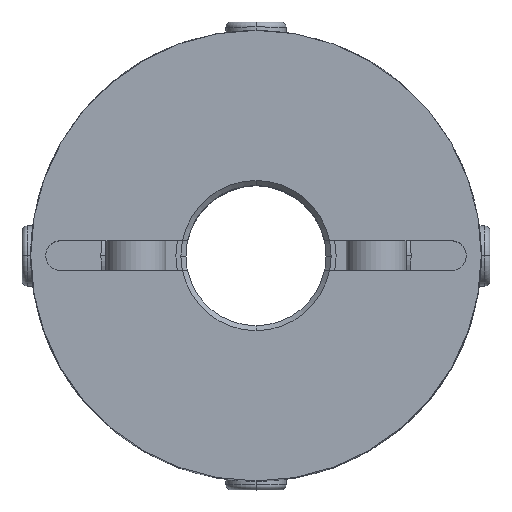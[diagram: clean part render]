
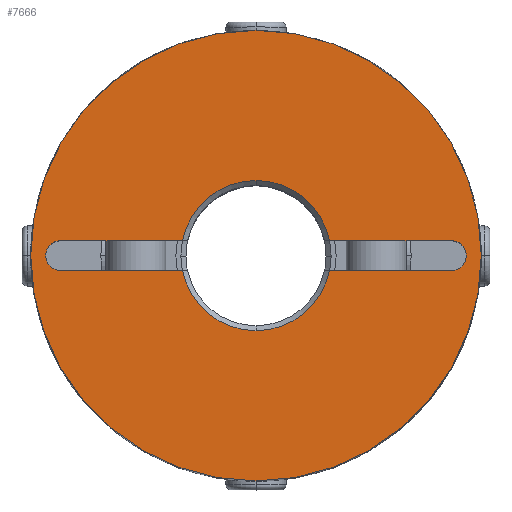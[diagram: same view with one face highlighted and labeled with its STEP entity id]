
A CAD part, top view. The second image highlights one B-rep face of the part: STEP entity #7666.
In plain terms, the highlighted planar face has unit normal (0, 0, 1).
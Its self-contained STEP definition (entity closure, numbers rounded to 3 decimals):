
#979=CARTESIAN_POINT('',(0.,22.5,22.5));
#980=VERTEX_POINT('',#979);
#987=CARTESIAN_POINT('',(0.,-22.5,22.5));
#988=VERTEX_POINT('',#987);
#989=CARTESIAN_POINT('',(0.0,0.0,22.5));
#990=DIRECTION('',(0.0,0.0,-1.0));
#991=DIRECTION('',(0.0,-1.0,0.0));
#992=AXIS2_PLACEMENT_3D('',#989,#990,#991);
#993=CIRCLE('',#992,22.5);
#994=EDGE_CURVE('',#980,#988,#993,.T.);
#1309=CARTESIAN_POINT('',(20.561,1.061,22.5));
#1310=VERTEX_POINT('',#1309);
#1326=CARTESIAN_POINT('',(19.5,-1.5,22.5));
#1327=VERTEX_POINT('',#1326);
#1334=CARTESIAN_POINT('',(19.5,0.,22.5));
#1335=DIRECTION('',(0.0,0.0,1.0));
#1336=DIRECTION('',(0.707,-0.707,0.0));
#1337=AXIS2_PLACEMENT_3D('',#1334,#1335,#1336);
#1338=CIRCLE('',#1337,1.5);
#1339=EDGE_CURVE('',#1327,#1310,#1338,.T.);
#1351=CARTESIAN_POINT('',(-20.561,-1.061,22.5));
#1352=VERTEX_POINT('',#1351);
#1368=CARTESIAN_POINT('',(-19.5,1.5,22.5));
#1369=VERTEX_POINT('',#1368);
#1376=CARTESIAN_POINT('',(-19.5,0.,22.5));
#1377=DIRECTION('',(0.0,0.0,1.0));
#1378=DIRECTION('',(-0.707,0.707,0.0));
#1379=AXIS2_PLACEMENT_3D('',#1376,#1377,#1378);
#1380=CIRCLE('',#1379,1.5);
#1381=EDGE_CURVE('',#1369,#1352,#1380,.T.);
#2105=CARTESIAN_POINT('',(0.,7.5,22.5));
#2106=VERTEX_POINT('',#2105);
#2114=CARTESIAN_POINT('',(7.348,1.5,22.5));
#2115=VERTEX_POINT('',#2114);
#2129=CARTESIAN_POINT('',(0.0,0.0,22.5));
#2130=DIRECTION('',(0.0,0.0,1.0));
#2131=DIRECTION('',(0.0,1.0,0.0));
#2132=AXIS2_PLACEMENT_3D('',#2129,#2130,#2131);
#2133=CIRCLE('',#2132,7.5);
#2134=EDGE_CURVE('',#2115,#2106,#2133,.T.);
#2144=CARTESIAN_POINT('',(0.,-7.5,22.5));
#2145=VERTEX_POINT('',#2144);
#2161=CARTESIAN_POINT('',(-7.348,-1.5,22.5));
#2162=VERTEX_POINT('',#2161);
#2176=CARTESIAN_POINT('',(0.0,0.0,22.5));
#2177=DIRECTION('',(0.0,0.0,1.0));
#2178=DIRECTION('',(0.0,-1.0,0.0));
#2179=AXIS2_PLACEMENT_3D('',#2176,#2177,#2178);
#2180=CIRCLE('',#2179,7.5);
#2181=EDGE_CURVE('',#2162,#2145,#2180,.T.);
#7404=CARTESIAN_POINT('',(19.5,1.5,22.5));
#7405=VERTEX_POINT('',#7404);
#7412=CARTESIAN_POINT('',(7.348,1.5,22.5));
#7413=DIRECTION('',(1.0,0.0,0.0));
#7414=VECTOR('',#7413,12.152);
#7415=LINE('',#7412,#7414);
#7416=EDGE_CURVE('',#2115,#7405,#7415,.T.);
#7551=CARTESIAN_POINT('',(7.348,-1.5,22.5));
#7552=VERTEX_POINT('',#7551);
#7566=CARTESIAN_POINT('',(19.5,-1.5,22.5));
#7567=DIRECTION('',(-1.0,0.0,0.0));
#7568=VECTOR('',#7567,12.152);
#7569=LINE('',#7566,#7568);
#7570=EDGE_CURVE('',#1327,#7552,#7569,.T.);
#7593=CARTESIAN_POINT('',(0.0,0.0,22.5));
#7594=DIRECTION('',(0.0,0.0,1.0));
#7595=DIRECTION('',(0.0,-1.0,0.0));
#7596=AXIS2_PLACEMENT_3D('',#7593,#7594,#7595);
#7597=CIRCLE('',#7596,7.5);
#7598=EDGE_CURVE('',#2145,#7552,#7597,.T.);
#7605=CARTESIAN_POINT('',(0.,-2.045,22.5));
#7606=DIRECTION('',(0.0,0.0,1.0));
#7607=DIRECTION('',(0.0,-1.0,0.0));
#7608=AXIS2_PLACEMENT_3D('',#7605,#7606,#7607);
#7609=PLANE('',#7608);
#7610=CARTESIAN_POINT('',(0.0,0.0,22.5));
#7611=DIRECTION('',(0.0,0.0,-1.0));
#7612=DIRECTION('',(0.0,-1.0,0.0));
#7613=AXIS2_PLACEMENT_3D('',#7610,#7611,#7612);
#7614=CIRCLE('',#7613,22.5);
#7615=EDGE_CURVE('',#988,#980,#7614,.T.);
#7616=ORIENTED_EDGE('',*,*,#7615,.F.);
#7617=ORIENTED_EDGE('',*,*,#994,.F.);
#7618=EDGE_LOOP('',(#7616,#7617));
#7619=FACE_OUTER_BOUND('',#7618,.T.);
#7620=ORIENTED_EDGE('',*,*,#2181,.F.);
#7621=CARTESIAN_POINT('',(-19.5,-1.5,22.5));
#7622=VERTEX_POINT('',#7621);
#7623=CARTESIAN_POINT('',(-7.348,-1.5,22.5));
#7624=DIRECTION('',(-1.0,0.0,0.0));
#7625=VECTOR('',#7624,12.152);
#7626=LINE('',#7623,#7625);
#7627=EDGE_CURVE('',#2162,#7622,#7626,.T.);
#7628=ORIENTED_EDGE('',*,*,#7627,.T.);
#7629=CARTESIAN_POINT('',(-19.5,0.,22.5));
#7630=DIRECTION('',(0.0,0.0,1.0));
#7631=DIRECTION('',(-0.707,0.707,0.0));
#7632=AXIS2_PLACEMENT_3D('',#7629,#7630,#7631);
#7633=CIRCLE('',#7632,1.5);
#7634=EDGE_CURVE('',#1352,#7622,#7633,.T.);
#7635=ORIENTED_EDGE('',*,*,#7634,.F.);
#7636=ORIENTED_EDGE('',*,*,#1381,.F.);
#7637=CARTESIAN_POINT('',(-7.348,1.5,22.5));
#7638=VERTEX_POINT('',#7637);
#7639=CARTESIAN_POINT('',(-19.5,1.5,22.5));
#7640=DIRECTION('',(1.0,0.0,0.0));
#7641=VECTOR('',#7640,12.152);
#7642=LINE('',#7639,#7641);
#7643=EDGE_CURVE('',#1369,#7638,#7642,.T.);
#7644=ORIENTED_EDGE('',*,*,#7643,.T.);
#7645=CARTESIAN_POINT('',(0.0,0.0,22.5));
#7646=DIRECTION('',(0.0,0.0,1.0));
#7647=DIRECTION('',(0.0,1.0,0.0));
#7648=AXIS2_PLACEMENT_3D('',#7645,#7646,#7647);
#7649=CIRCLE('',#7648,7.5);
#7650=EDGE_CURVE('',#2106,#7638,#7649,.T.);
#7651=ORIENTED_EDGE('',*,*,#7650,.F.);
#7652=ORIENTED_EDGE('',*,*,#2134,.F.);
#7653=ORIENTED_EDGE('',*,*,#7416,.T.);
#7654=CARTESIAN_POINT('',(19.5,0.,22.5));
#7655=DIRECTION('',(0.0,0.0,1.0));
#7656=DIRECTION('',(0.707,-0.707,0.0));
#7657=AXIS2_PLACEMENT_3D('',#7654,#7655,#7656);
#7658=CIRCLE('',#7657,1.5);
#7659=EDGE_CURVE('',#1310,#7405,#7658,.T.);
#7660=ORIENTED_EDGE('',*,*,#7659,.F.);
#7661=ORIENTED_EDGE('',*,*,#1339,.F.);
#7662=ORIENTED_EDGE('',*,*,#7570,.T.);
#7663=ORIENTED_EDGE('',*,*,#7598,.F.);
#7664=EDGE_LOOP('',(#7620,#7628,#7635,#7636,#7644,#7651,#7652,#7653,#7660,#7661,#7662,#7663));
#7665=FACE_BOUND('',#7664,.T.);
#7666=ADVANCED_FACE('',(#7619,#7665),#7609,.T.);
